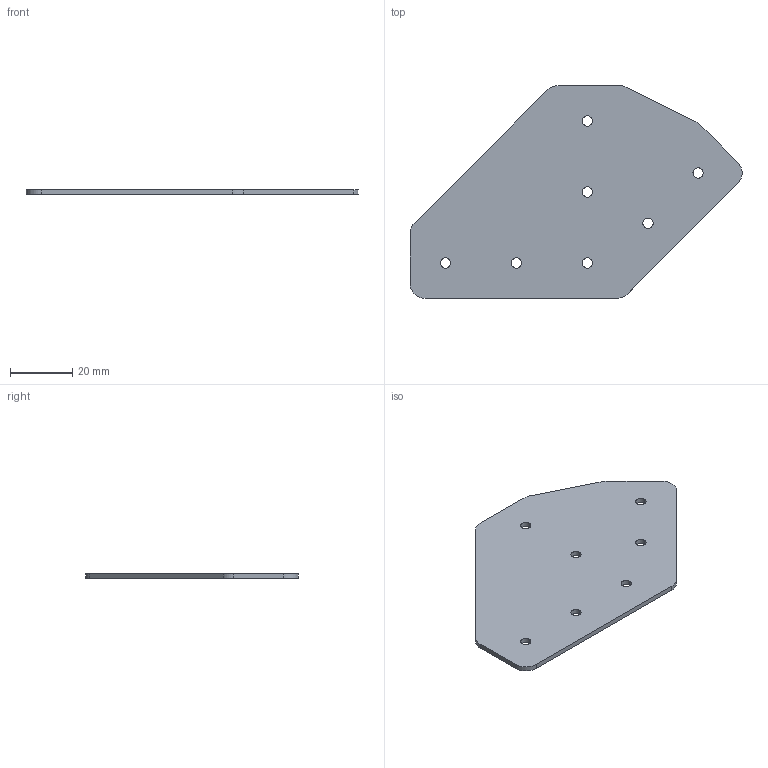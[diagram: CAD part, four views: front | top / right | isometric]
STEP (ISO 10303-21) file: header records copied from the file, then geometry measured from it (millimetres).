
FILE_DESCRIPTION (( 'STEP AP203' ), '1' );
FILE_NAME ('FDPGK-S_.75-90135.step', '2019-09-11T19:45:40', ( 'ydmin' ), ( '' ), 'SwSTEP 2.0', 'SolidWorks 2017', '' );
FILE_SCHEMA (( 'CONFIG_CONTROL_DESIGN' ));
Length unit declared in the file: inch
Products named in the file (1): FDPGK-S_.75-90135
Bounding box: 106.36 x 68.2 x 1.59 mm (x, y, z)
Volume: 7959.8 mm3; surface area: 10587.3 mm2
Topology: 1 solids, 1 shells, 30 faces, 84 edges, 56 vertices
Faces by surface type: cylinder 21, plane 9
Entity records: 1097 total; most frequent: DIRECTION 188, CARTESIAN_POINT 171, ORIENTED_EDGE 168, EDGE_CURVE 84, AXIS2_PLACEMENT_3D 73, VERTEX_POINT 56, EDGE_LOOP 44, LINE 42
